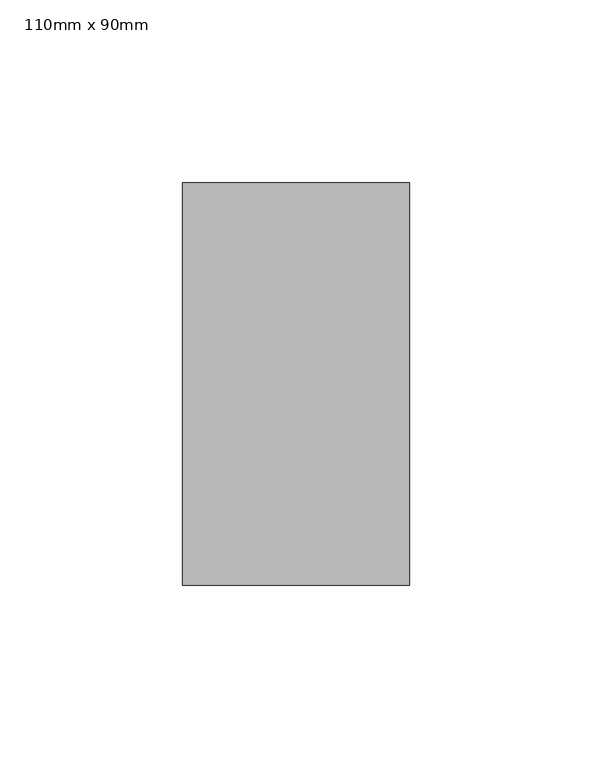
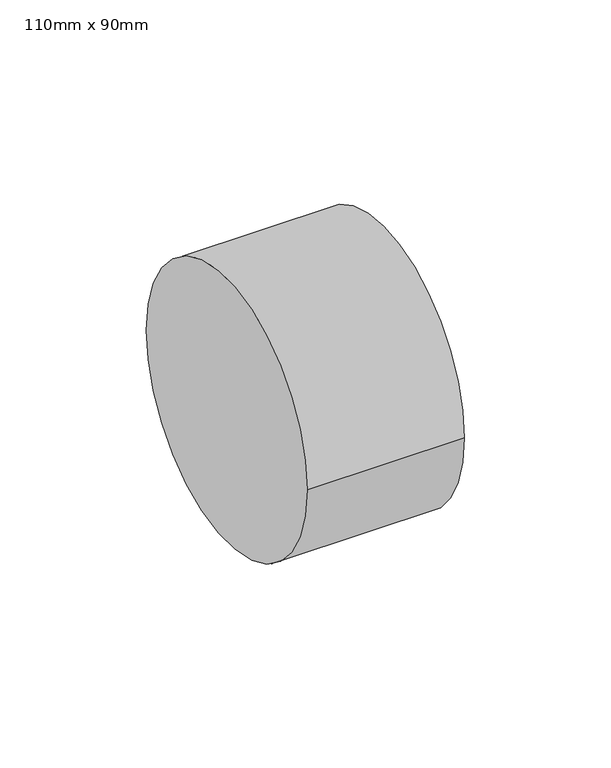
"""IFC4 building model written with IfcOpenShell, lengths in millimetres: pipe fitting geometry, PipeFitting_HTA_CPVC_ReducingBushesShortPattern : 110mm x 90mm."""

from ifc_helpers import new_model, si_unit, point, frame, origin, origin_2d, place, context, project, spatial, circle_curve, trimmed, segment, composite_curve, outline, extrude, source, transform, mapped, element, save


def pipe_fitting_110mm_x_90mm_0304e47f(model_context):
    return source(origin(), model_context, "Body", "SweptSolid", [
        extrude(outline(composite_curve([segment(trimmed(circle_curve(origin_2d(), 55.0), [point((-55.0, 0.0))], [point((55.0, 0.0))], False, "CARTESIAN"), True, "CONTINUOUS"), segment(trimmed(circle_curve(origin_2d(), 55.0), [point((55.0, 0.0))], [point((-55.0, 0.0))], False, "CARTESIAN"), True, "CONTINUOUS")], self_intersect=False)), frame((-31.0, 0.0, 0.0), z_axis=(1.0, 0.0, 0.0), x_axis=(0.0, 1.0, 0.0)), (0.0, 0.0, 1.0), 62.0),
    ])


if __name__ == "__main__":
    model = new_model("IFC4")
    model_context = context("Model", 3, world=origin())
    ifc_project = project(units=[si_unit("LENGTHUNIT", "METRE", prefix="MILLI")], contexts=[model_context])
    site = spatial("IfcSite", under=ifc_project)
    building = spatial("IfcBuilding", under=site)
    placement = place(None, origin())
    pipe_fitting_110mm_x_90mm_shape = pipe_fitting_110mm_x_90mm_0304e47f(model_context)
    element("IfcPipeFitting", 1, ObjectType="PipeFitting_HTA_CPVC_ReducingBushesShortPattern : 110mm x 90mm", at=placement, inside=building, context=model_context, shape_type="MappedRepresentation", body=[
        mapped(pipe_fitting_110mm_x_90mm_shape, transform((0.0, 0.0, 0.0), x_axis=(1.0, 0.0, 0.0), y_axis=(0.0, 1.0, 0.0), z_axis=(0.0, 0.0, 1.0))),
    ])
    save(model, "model.ifc")
